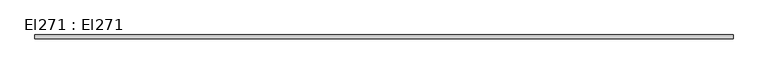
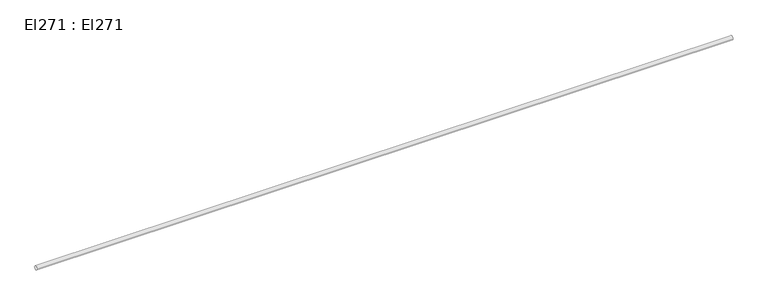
"""IFC4 building model written with IfcOpenShell, lengths in millimetres: cable carrier segment geometry, El271 : El271."""

from ifc_helpers import new_model, si_unit, point, frame, frame_2d, origin, place, context, project, spatial, circle_curve, trimmed, segment, composite_curve, outline, extrude, source, transform, mapped, element, save


def el271_el271_eaa6fd7d(model_context):
    return source(origin(), model_context, "Body", "SweptSolid", [
        extrude(outline(composite_curve([segment(trimmed(circle_curve(frame_2d((29102.8, 2950.0)), 9.5), [point((29093.3, 2950.0))], [point((29112.3, 2950.0))], False, "CARTESIAN"), True, "CONTINUOUS"), segment(trimmed(circle_curve(frame_2d((29102.8, 2950.0)), 9.5), [point((29112.3, 2950.0))], [point((29093.3, 2950.0))], False, "CARTESIAN"), True, "CONTINUOUS")], self_intersect=False)), frame((4570.06, 0.0, 0.0), z_axis=(1.0, 0.0, 0.0), x_axis=(0.0, 1.0, 0.0)), (0.0, 0.0, 1.0), 3274.88),
    ])


if __name__ == "__main__":
    model = new_model("IFC4")
    model_context = context("Model", 3, world=origin())
    ifc_project = project(units=[si_unit("LENGTHUNIT", "METRE", prefix="MILLI")], contexts=[model_context])
    site = spatial("IfcSite", under=ifc_project)
    building = spatial("IfcBuilding", under=site)
    placement = place(None, origin())
    el271_el271_shape = el271_el271_eaa6fd7d(model_context)
    element("IfcCableCarrierSegment", 1, ObjectType="El271 : El271", at=placement, inside=building, context=model_context, shape_type="MappedRepresentation", body=[
        mapped(el271_el271_shape, transform((0.0, 0.0, 0.0), x_axis=(1.0, 0.0, 0.0), y_axis=(0.0, 1.0, 0.0), z_axis=(0.0, 0.0, 1.0))),
    ])
    save(model, "model.ifc")
